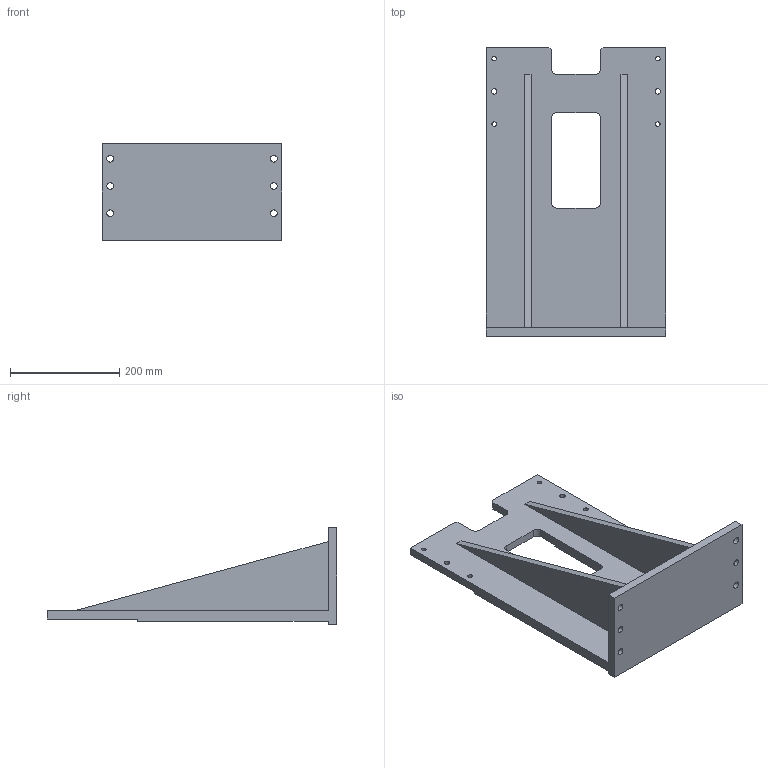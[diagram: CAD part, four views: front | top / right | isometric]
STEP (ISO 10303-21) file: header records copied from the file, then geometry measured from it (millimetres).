
FILE_DESCRIPTION(/* description */ ('DB4-RISER'),/* implementation_level */ '2;1');
FILE_NAME(/* name */ 'C:\Vault Workspace\CAD\Welker\Shot Pin\DBL40\S01896 DB4 Mounting Accessories\S01896E02\S01896E02-450.stp',/* time_stamp */ '2016-05-04T13:51:26-04:00',/* author */ ('klabrecque'),/* organization */ (''),/* preprocessor_version */ 'ST-DEVELOPER v15.2',/* originating_system */ 'Autodesk Inventor 2014',/* authorisation */ '');
FILE_SCHEMA (('AUTOMOTIVE_DESIGN { 1 0 10303 214 3 1 1 }'));
Length unit declared in the file: millimetre
Products named in the file (1): S01896E02-450
Bounding box: 330 x 531 x 177.8 mm (x, y, z)
Volume: 4340586.5 mm3; surface area: 580879.1 mm2
Topology: 1 solids, 1 shells, 47 faces, 150 edges, 104 vertices
Faces by surface type: plane 29, cylinder 18
Full cylindrical faces by diameter (mm): 8.376 x4, 10 x2, 12 x2, 12.5 x4
Entity records: 1628 total; most frequent: CARTESIAN_POINT 266, DIRECTION 258, ORIENTED_EDGE 252, EDGE_CURVE 126, VERTEX_POINT 92, LINE 90, VECTOR 90, EDGE_LOOP 84
